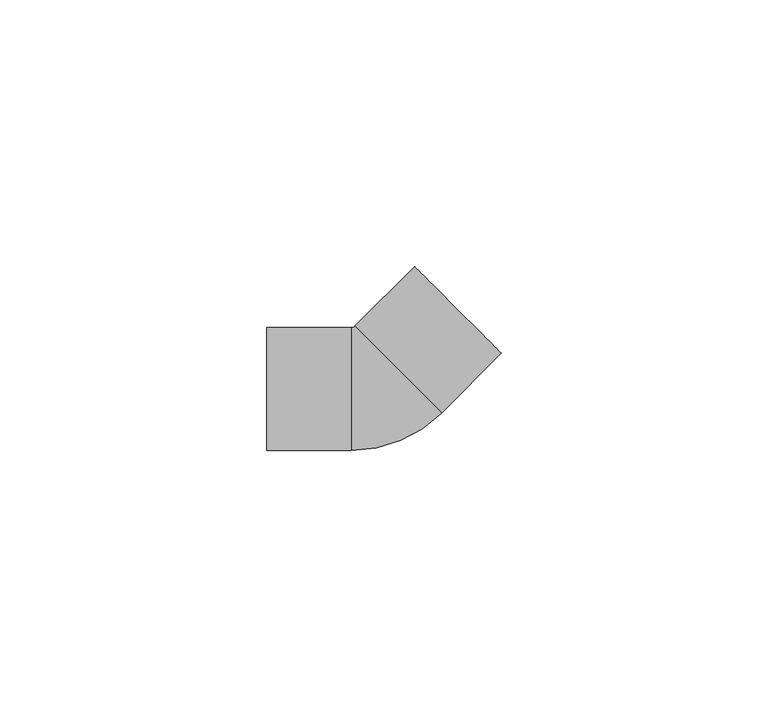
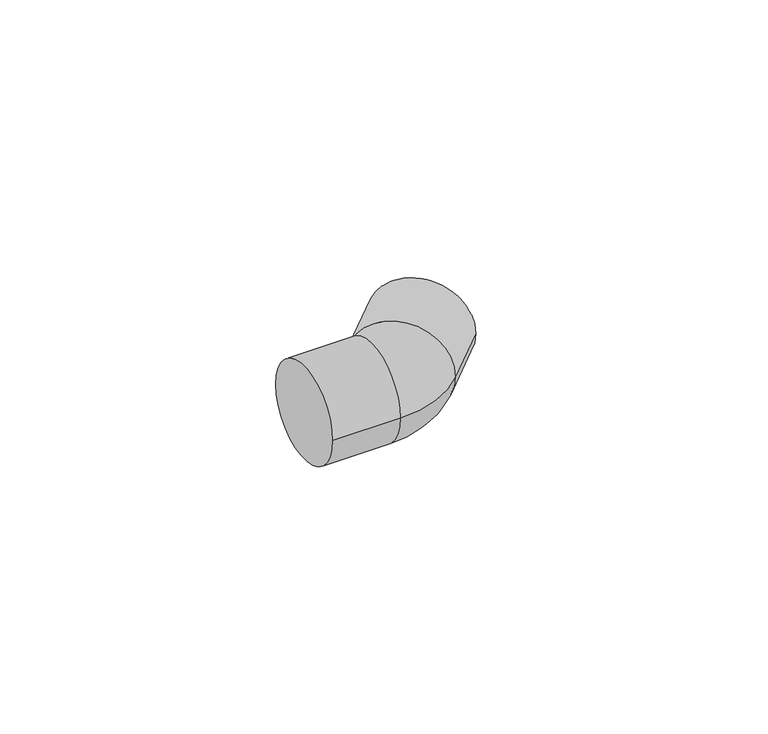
"""IFC4 building model written with IfcOpenShell, lengths in millimetres: pipe fitting geometry, KAN-therm PP kolano 45 : KAN-therm PP kolano 45."""

import ifcopenshell
import ifcopenshell.guid

model = None  # the IFC model being written
_history = None  # IfcOwnerHistory: only IFC2X3 demands one
_inside = {}  # id of a spatial element -> (the spatial element, [elements in it])
_under = {}  # id of a project, library or spatial element -> (it, [spatial elements below it])
_declared = {}  # id of a project -> (the project, [libraries it declares])
_typed = {}  # id of a type object -> (the type object, [elements of that type])
_made_of = {}  # id of a material, layer set ... -> (it, [elements and type objects made of it])


def new_model(schema):
    """Start an empty IFC model of exactly this schema.

    Asked for "IFC4X3", IfcOpenShell would pick the latest addendum, in which some entities
    have other attributes; the version numbers below select the first issue.
    IFC2X3 requires an IfcOwnerHistory on every rooted entity: one is made here for all.
    """
    global model, _history
    if schema == "IFC4X3":
        model = ifcopenshell.file(schema_version=(4, 3, 0, 0))
    else:
        model = ifcopenshell.file(schema=schema)
    _inside.clear()
    _under.clear()
    _declared.clear()
    _typed.clear()
    _made_of.clear()
    _history = None
    if model.schema == "IFC2X3":
        org = make("IfcOrganization", Name="unknown")
        user = make(
            "IfcPersonAndOrganization",
            ThePerson=make("IfcPerson", FamilyName="unknown"),
            TheOrganization=org,
        )
        app = make(
            "IfcApplication",
            ApplicationDeveloper=org,
            Version="unknown",
            ApplicationFullName="unknown",
            ApplicationIdentifier="unknown",
        )
        _history = make(
            "IfcOwnerHistory",
            OwningUser=user,
            OwningApplication=app,
            ChangeAction="ADDED",
            CreationDate=0,
        )
    return model


def make(cls, **values):
    """One entity of the class cls with the attributes given. An attribute that is None is left unset."""
    return model.create_entity(
        cls, **{name: value for name, value in values.items() if value is not None}
    )


def rooted(cls, **values):
    """An entity with a GlobalId (a new one), such as an element, a storey or a relation."""
    return make(cls, GlobalId=ifcopenshell.guid.new(), OwnerHistory=_history, **values)


def si_unit(unit_type, name, prefix=None):
    """IfcSIUnit, for example si_unit("LENGTHUNIT", "METRE", prefix="MILLI")."""
    return make("IfcSIUnit", UnitType=unit_type, Prefix=prefix, Name=name)


def assignment(units):
    """IfcUnitAssignment: the units of a project."""
    return None if units is None else make("IfcUnitAssignment", Units=units)


def point(xyz):
    """IfcCartesianPoint."""
    return None if xyz is None else make("IfcCartesianPoint", Coordinates=xyz)


def direction(xyz):
    """IfcDirection."""
    return None if xyz is None else make("IfcDirection", DirectionRatios=xyz)


def frame(location, z_axis=None, x_axis=None):
    """IfcAxis2Placement3D, a coordinate frame: its origin and axes. An axis left out is left unset."""
    return make(
        "IfcAxis2Placement3D",
        Location=point(location),
        Axis=direction(z_axis),
        RefDirection=direction(x_axis),
    )


def origin():
    """The frame at (0, 0, 0) with its axes left unset."""
    return frame((0.0, 0.0, 0.0))


def place(relative_to, where):
    """IfcLocalPlacement: puts the frame where relative to a parent placement (None: the world)."""
    return make(
        "IfcLocalPlacement", PlacementRelTo=relative_to, RelativePlacement=where
    )


def context(
    kind, dimensions, precision=None, world=None, true_north=None, identifier=None
):
    """IfcGeometricRepresentationContext, for example the 3D "Model" context."""
    return make(
        "IfcGeometricRepresentationContext",
        ContextIdentifier=identifier,
        ContextType=kind,
        CoordinateSpaceDimension=dimensions,
        Precision=precision,
        WorldCoordinateSystem=world,
        TrueNorth=true_north,
    )


def project(units=None, contexts=None):
    """IfcProject with its units and contexts."""
    return rooted(
        "IfcProject",
        Name="project",
        RepresentationContexts=contexts,
        UnitsInContext=assignment(units),
    )


def spatial(cls, under=None, at=None, **own):
    """A site, building, storey or space (cls), placed at a placement, below another one or the project."""
    s = rooted(cls, ObjectPlacement=at, **own)
    if under is not None:
        _under.setdefault(under.id(), (under, []))[1].append(s)
    return s


def circle_curve(where, radius):
    """IfcCircle in the frame where."""
    return make("IfcCircle", Position=where, Radius=radius)


def ellipse_curve(where, semi_axis1, semi_axis2):
    """IfcEllipse in the frame where."""
    return make(
        "IfcEllipse", Position=where, SemiAxis1=semi_axis1, SemiAxis2=semi_axis2
    )


def trimmed(basis, trim1, trim2, sense, master):
    """IfcTrimmedCurve: the piece of a basis curve between two trims."""
    return make(
        "IfcTrimmedCurve",
        BasisCurve=basis,
        Trim1=trim1,
        Trim2=trim2,
        SenseAgreement=sense,
        MasterRepresentation=master,
    )


def shape(context_of_items, identifier, shape_type, items):
    """IfcShapeRepresentation: the items that make up one representation, for example the "Body"."""
    return make(
        "IfcShapeRepresentation",
        ContextOfItems=context_of_items,
        RepresentationIdentifier=identifier,
        RepresentationType=shape_type,
        Items=items,
    )


def source(mapping_origin, context_of_items, identifier, shape_type, items):
    """IfcRepresentationMap: a shape defined once, which mapped items show again and again."""
    return make(
        "IfcRepresentationMap",
        MappingOrigin=mapping_origin,
        MappedRepresentation=shape(context_of_items, identifier, shape_type, items),
    )


def transform(
    local_origin,
    x_axis=None,
    y_axis=None,
    z_axis=None,
    scale=None,
    scale2=None,
    scale3=None,
    uniform=True,
):
    """IfcCartesianTransformationOperator3D, or its non-uniform kind. x_axis, y_axis, z_axis: its Axis1, 2, 3."""
    if uniform:
        return make(
            "IfcCartesianTransformationOperator3D",
            Axis1=direction(x_axis),
            Axis2=direction(y_axis),
            LocalOrigin=point(local_origin),
            Scale=scale,
            Axis3=direction(z_axis),
        )
    return make(
        "IfcCartesianTransformationOperator3DnonUniform",
        Axis1=direction(x_axis),
        Axis2=direction(y_axis),
        LocalOrigin=point(local_origin),
        Scale=scale,
        Axis3=direction(z_axis),
        Scale2=scale2,
        Scale3=scale3,
    )


def mapped(mapping_source, mapping_target):
    """IfcMappedItem: shows the shape of a source again, moved by a transform."""
    return make(
        "IfcMappedItem", MappingSource=mapping_source, MappingTarget=mapping_target
    )


def made_of(thing, what):
    """Note that an element or type object is made of a material, layer set ...; save() writes the relation."""
    if what is not None:
        _made_of.setdefault(what.id(), (what, []))[1].append(thing)
    return thing


def element(
    cls,
    number,
    at=None,
    inside=None,
    cuts=None,
    type_object=None,
    material=None,
    context=None,
    identifier="Body",
    shape_type=None,
    held_by="IfcProductDefinitionShape",
    body=None,
    shapes=None,
    **own,
):
    """One element of the class cls, such as IfcWall. Its Tag is "e" and its number.

    at: its placement. inside: the storey or other place that contains it. cuts: it is an
    opening in that element (IfcRelVoidsElement). A single representation is given by context,
    identifier, shape_type and body (its items); several are given by shapes. held_by: the class
    of the entity that holds the representations. save() writes the other relations.
    """
    e = rooted(cls, Tag="e%d" % number, ObjectPlacement=at, **own)
    if body is not None:
        shapes = [shape(context, identifier, shape_type, body)]
    if shapes is not None:
        e.Representation = make(held_by, Representations=shapes)
    if inside is not None:
        _inside.setdefault(inside.id(), (inside, []))[1].append(e)
    if cuts is not None:
        rooted(
            "IfcRelVoidsElement", RelatingBuildingElement=cuts, RelatedOpeningElement=e
        )
    if type_object is not None:
        _typed.setdefault(type_object.id(), (type_object, []))[1].append(e)
    return made_of(e, material)


def aggregate(whole, parts):
    """IfcRelAggregates: a whole, such as a stair, and the parts it consists of."""
    return rooted("IfcRelAggregates", RelatingObject=whole, RelatedObjects=parts)


def save(model, path):
    """Write the relations noted so far, then the file.

    IfcRelAggregates (storeys below a building ...), IfcRelContainedInSpatialStructure (elements
    in a storey), IfcRelDefinesByType, IfcRelAssociatesMaterial and IfcRelDeclares: one each for
    every whole, place, type object, material and project.
    """
    for whole, parts in _under.values():
        aggregate(whole, parts)
    for where, things in _inside.values():
        rooted(
            "IfcRelContainedInSpatialStructure",
            RelatedElements=things,
            RelatingStructure=where,
        )
    for kind, things in _typed.values():
        rooted("IfcRelDefinesByType", RelatedObjects=things, RelatingType=kind)
    for what, things in _made_of.values():
        rooted("IfcRelAssociatesMaterial", RelatedObjects=things, RelatingMaterial=what)
    for by, libraries in _declared.values():
        rooted("IfcRelDeclares", RelatingContext=by, RelatedDefinitions=libraries)
    model.write(path)


def plane_surface(at):
    """IfcPlane: the flat surface through the origin of the frame at, square to its z axis."""
    return make("IfcPlane", Position=at)


def cylinder_surface(at, radius):
    """IfcCylindricalSurface: all points at the distance radius from the z axis of the frame at."""
    return make("IfcCylindricalSurface", Position=at, Radius=radius)


def revolved_surface(curve, axis_point, axis_direction):
    """IfcSurfaceOfRevolution: the curve turned about the line through axis_point along axis_direction."""
    return make(
        "IfcSurfaceOfRevolution",
        SweptCurve=make("IfcArbitraryOpenProfileDef", ProfileType="CURVE", Curve=curve),
        AxisPosition=make("IfcAxis1Placement", Location=point(axis_point), Axis=direction(axis_direction)),
    )


def advanced_brep(points, edges, surfaces, faces):
    """IfcAdvancedBrep: a solid bounded by faces that lie on surfaces and meet in shared edges.

    An edge is (start, end): straight between two places in points (the first is 0);
    or (start, end, curve); or (start, end, curve, False) where it runs against its curve.
    A face is (place in surfaces, loops), or (place, loops, False) where it looks against
    its surface's normal. A loop lists edges by number (the first is 1), with a minus sign
    where the edge is run from its end to its start. The first loop is the outer one.
    """
    corners = [point(p) for p in points]
    vertices = [make("IfcVertexPoint", VertexGeometry=c) for c in corners]
    made = []
    for start, end, *more in edges:
        made.append(
            make(
                "IfcEdgeCurve",
                EdgeStart=vertices[start],
                EdgeEnd=vertices[end],
                EdgeGeometry=more[0] if more else make("IfcPolyline", Points=[corners[start], corners[end]]),
                SameSense=more[1] if len(more) > 1 else True,
            )
        )
    hull = []
    for where, loops, *sense in faces:
        bounds = []
        for j, loop in enumerate(loops):
            ring = [make("IfcOrientedEdge", EdgeElement=made[abs(k) - 1], Orientation=k > 0) for k in loop]
            bounds.append(
                make(
                    "IfcFaceOuterBound" if j == 0 else "IfcFaceBound",
                    Bound=make("IfcEdgeLoop", EdgeList=ring),
                    Orientation=True,
                )
            )
        hull.append(make("IfcAdvancedFace", Bounds=bounds, FaceSurface=surfaces[where], SameSense=sense[0] if sense else True))
    return make("IfcAdvancedBrep", Outer=make("IfcClosedShell", CfsFaces=hull))


def pipe_fitting_2143d2fa(model_context):
    return source(origin(), model_context, "Body", "AdvancedBrep", [
        advanced_brep(
        [(-13.5, -11.5, 0.0), (-13.5, 11.5, 0.0), (2.3223305, -11.5, 0.0), (2.3223305, 11.5, 0.0), (3.0294373, 11.7928932, 0.0), (19.2928932, -4.4705627, 0.0), (30.4809704, 6.7175144, 0.0), (14.2175144, 22.9809704, 0.0)],
        [
            (0, 1, circle_curve(frame((-13.5, 0.0, 0.0), z_axis=(-1.0, 0.0, 0.0), x_axis=(0.0, 1.0, 0.0)), 11.5)),
            (1, 0, circle_curve(frame((-13.5, 0.0, 0.0), z_axis=(-1.0, 0.0, 0.0), x_axis=(0.0, 1.0, 0.0)), 11.5)),
            (0, 2),
            (2, 3, circle_curve(frame((2.3223305, 0.0, 0.0), z_axis=(-1.0, 0.0, 0.0), x_axis=(0.0, 1.0, 0.0)), 11.5)),
            (3, 1),
            (3, 2, circle_curve(frame((2.3223305, 0.0, 0.0), z_axis=(-1.0, 0.0, 0.0), x_axis=(0.0, 1.0, 0.0)), 11.5)),
            (4, 3, circle_curve(frame((2.3223305, 12.5, 0.0), z_axis=(0.0, 0.0, -1.0), x_axis=(0.0, -1.0, 0.0)), 1.0)),
            (2, 5, circle_curve(frame((2.3223305, 12.5, 0.0), z_axis=(0.0, 0.0, 1.0), x_axis=(0.0, -1.0, 0.0)), 24.0)),
            (5, 4, circle_curve(frame((11.1611652, 3.6611652, 0.0), z_axis=(-0.7071067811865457, -0.7071067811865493, 0.0), x_axis=(-0.7071067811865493, 0.7071067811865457, 0.0)), 11.5)),
            (4, 5, circle_curve(frame((11.1611652, 3.6611652, 0.0), z_axis=(-0.7071067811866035, -0.7071067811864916, 0.0), x_axis=(-0.7071067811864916, 0.7071067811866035, 0.0)), 11.5)),
            (6, 7, circle_curve(frame((22.3492424, 14.8492424, 0.0), z_axis=(0.7071067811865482, 0.707106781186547, 0.0), x_axis=(-0.707106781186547, 0.7071067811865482, 0.0)), 11.5)),
            (7, 6, circle_curve(frame((22.3492424, 14.8492424, 0.0), z_axis=(0.7071067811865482, 0.707106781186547, 0.0), x_axis=(-0.707106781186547, 0.7071067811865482, 0.0)), 11.5)),
            (5, 6),
            (7, 4),
        ],
        [
            plane_surface(frame((-13.5, 0.0, 0.0), z_axis=(-1.0, 0.0, 0.0), x_axis=(0.0, 0.0, 1.0))),
            cylinder_surface(frame((-13.5, 0.0, 0.0), z_axis=(-1.0, 0.0, 0.0), x_axis=(0.0, 1.0, 0.0)), 11.5),
            revolved_surface(trimmed(ellipse_curve(frame((2.3223305, 0.0, 0.0), z_axis=(-1.0, 0.0, 0.0), x_axis=(0.0, 1.0, 0.0)), 11.5, 11.5), [point((2.3223305, -11.5, 0.0))], [point((2.3223305, 11.5, 0.0))], True, "CARTESIAN"), (2.3223305, 12.5, 0.0), (0.0, 0.0, 1.0)),
            revolved_surface(trimmed(ellipse_curve(frame((2.3223305, 0.0, 0.0), z_axis=(-1.0, 0.0, 0.0), x_axis=(0.0, 1.0, 0.0)), 11.5, 11.5), [point((2.3223305, 11.5, 0.0))], [point((2.3223305, -11.5, 0.0))], True, "CARTESIAN"), (2.3223305, 12.5, 0.0), (0.0, 0.0, 1.0)),
            plane_surface(frame((22.3492424, 14.8492424, 0.0), z_axis=(0.7071067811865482, 0.707106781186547, 0.0), x_axis=(0.0, 0.0, 1.0))),
            cylinder_surface(frame((11.1611652, 3.6611652, 0.0), z_axis=(-0.7071067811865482, -0.707106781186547, 0.0), x_axis=(-0.707106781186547, 0.7071067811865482, 0.0)), 11.5),
        ],
        [
            (0, [[1, 2]]),
            (1, [[-1, 3, 4, 5]]),
            (1, [[-2, -5, 6, -3]]),
            (2, [[7, -4, 8, 9]]),
            (3, [[-8, -6, -7, 10]]),
            (4, [[11, 12]]),
            (5, [[-9, 13, -12, 14]]),
            (5, [[-10, -14, -11, -13]]),
        ],
    ),
    ])


if __name__ == "__main__":
    model = new_model("IFC4")
    model_context = context("Model", 3, world=origin())
    ifc_project = project(units=[si_unit("LENGTHUNIT", "METRE", prefix="MILLI")], contexts=[model_context])
    site = spatial("IfcSite", under=ifc_project)
    building = spatial("IfcBuilding", under=site)
    placement = place(None, origin())
    pipe_fitting_shape = pipe_fitting_2143d2fa(model_context)
    element("IfcPipeFitting", 1, ObjectType="KAN-therm PP kolano 45 : KAN-therm PP kolano 45", at=placement, inside=building, context=model_context, shape_type="MappedRepresentation", body=[
        mapped(pipe_fitting_shape, transform((0.0, 0.0, 0.0), x_axis=(1.0, 0.0, 0.0), y_axis=(0.0, 1.0, 0.0), z_axis=(0.0, 0.0, 1.0))),
    ])
    save(model, "model.ifc")
